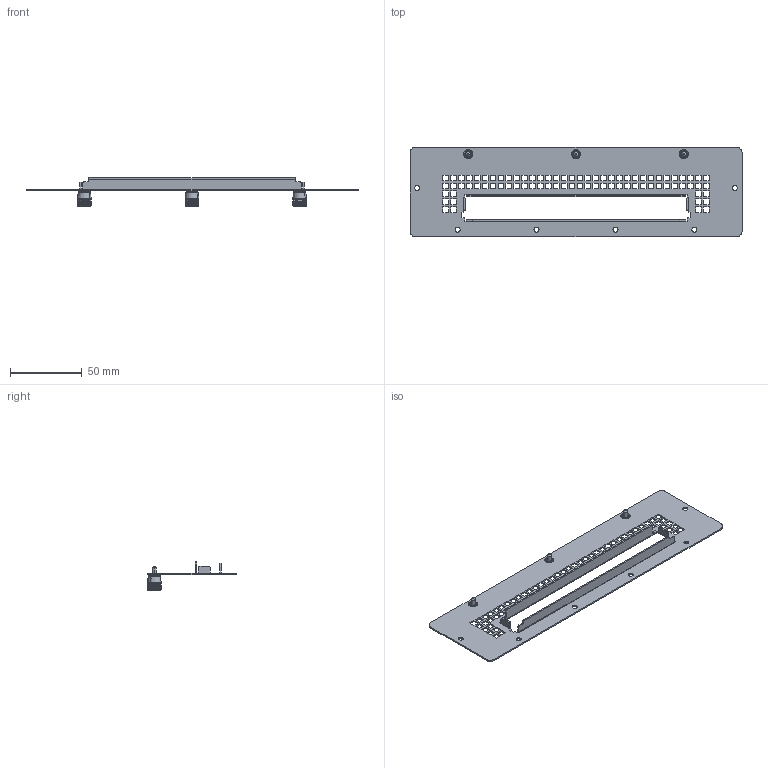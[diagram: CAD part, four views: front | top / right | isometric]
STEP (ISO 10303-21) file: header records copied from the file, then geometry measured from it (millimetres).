
FILE_DESCRIPTION((''),'2;1');
FILE_NAME('OCP3-FACE-INSERT-DSFF-ASSY_AS_1_ASM','2025-03-18T09:57:56',('Jon_Lewis'),('Dell Technologies'),'CREO PARAMETRIC BY PTC INC, 2023294','CREO PARAMETRIC BY PTC INC, 2023294','');
FILE_SCHEMA(('AUTOMOTIVE_DESIGN { 1 0 10303 214 1 1 1 1 }'));
Products named in the file (4): OCP3-FIXTURE-FACE-INSERT-DSFF2; PRT0025; OCP-NIC-SFF-THUMB-SCR-15G1_1; OCP3-FACE-INSERT-DSFF-ASSY_AS_1_ASM
Assembly tree (4 placements, depth 2):
  OCP3-FACE-INSERT-DSFF-ASSY_AS_1_ASM
    OCP3-FIXTURE-FACE-INSERT-DSFF2
    PRT0025
    OCP-NIC-SFF-THUMB-SCR-15G1_1  x2
Bounding box: 231.2 x 62.58 x 20.13 mm (x, y, z)
Volume: 12810.8 mm3; surface area: 31427.5 mm2
Topology: 1 solids, 7 shells, 2100 faces, 5513 edges, 3461 vertices
Faces by surface type: plane 1130, torus 351, cone 333, cylinder 196, bspline 90
Entity records: 63827 total; most frequent: CARTESIAN_POINT 19900, ORIENTED_EDGE 8164, DIRECTION 8021, EDGE_CURVE 4088, AXIS2_PLACEMENT_3D 2860, VERTEX_POINT 2580, VECTOR 2247, LINE 2247
